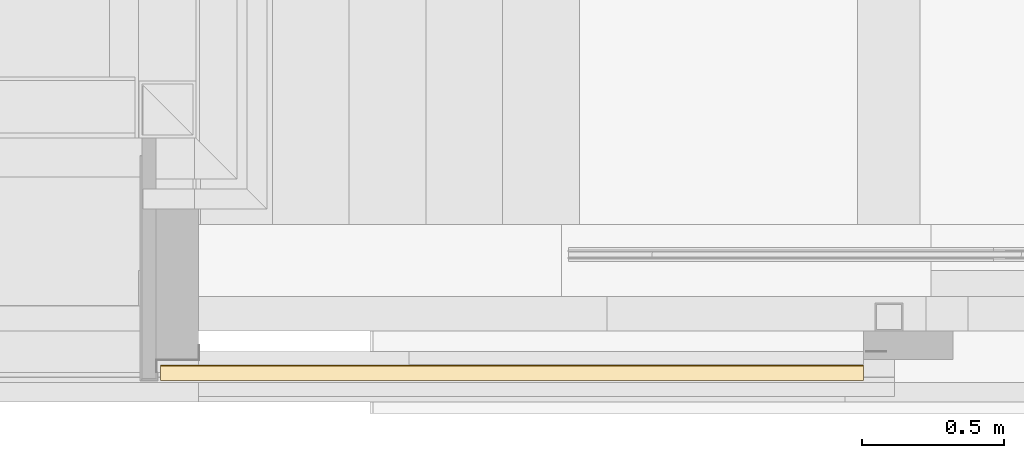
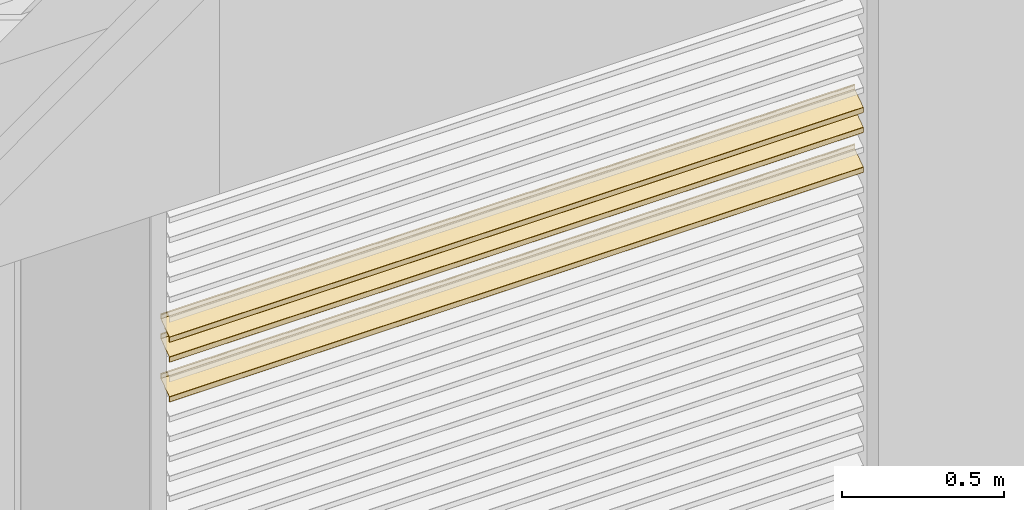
# One storey, part 110 of 165: 3 coverings, 1 element without a shape of its own.
"""IFC2X3 building model written with IfcOpenShell, lengths in millimetres."""

from ifc_helpers import new_model, entity, si_unit, converted_unit, derived_unit, money_unit, direction, frame, origin_with_axes, place, context, subcontext, project, spatial, faceted_brep, material, type_object, element, aggregate, save


model = new_model("IFC2X3")

# Units and contexts
model_context = context("Model", 3, precision=0.01, world=origin_with_axes(), true_north=direction((0.0, 1.0)))
body_context = subcontext(model_context, "Body", "Model", "MODEL_VIEW")
ifc_project = project(units=[si_unit("LENGTHUNIT", "METRE", prefix="MILLI"), si_unit("AREAUNIT", "SQUARE_METRE"), si_unit("VOLUMEUNIT", "CUBIC_METRE"), converted_unit("PLANEANGLEUNIT", "DEGREE", entity("IfcPlaneAngleMeasure", 0.0174532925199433), si_unit("PLANEANGLEUNIT", "RADIAN"), dimensions=[0, 0, 0, 0, 0, 0, 0]), money_unit("EUR"), converted_unit("TIMEUNIT", "Year", entity("IfcTimeMeasure", 31556926.0), si_unit("TIMEUNIT", "SECOND"), dimensions=[0, 0, 1, 0, 0, 0, 0]), si_unit("MASSUNIT", "GRAM", prefix="KILO"), si_unit("THERMODYNAMICTEMPERATUREUNIT", "DEGREE_CELSIUS"), si_unit("LUMINOUSINTENSITYUNIT", "LUMEN"), si_unit("ENERGYUNIT", "JOULE", prefix="MEGA"), derived_unit("THERMALCONDUCTANCEUNIT", [(si_unit("POWERUNIT", "WATT"), 1), (si_unit("LENGTHUNIT", "METRE"), -1), (si_unit("THERMODYNAMICTEMPERATUREUNIT", "KELVIN"), -1)]), derived_unit("SPECIFICHEATCAPACITYUNIT", [(si_unit("ENERGYUNIT", "JOULE"), 1), (si_unit("MASSUNIT", "GRAM", prefix="KILO"), -1), (si_unit("THERMODYNAMICTEMPERATUREUNIT", "KELVIN"), -1)]), derived_unit("MASSDENSITYUNIT", [(si_unit("MASSUNIT", "GRAM", prefix="KILO"), 1), (si_unit("VOLUMEUNIT", "CUBIC_METRE"), -1)])], contexts=[model_context])

# Site, building, storey
site_placement = place(None, origin_with_axes())
site = spatial("IfcSite", under=ifc_project, at=site_placement, Name="Site", CompositionType="ELEMENT")
building_placement = place(site_placement, origin_with_axes())
building = spatial("IfcBuilding", under=site, at=building_placement, Name="Naam gebouw", CompositionType="ELEMENT")
storey_placement = place(building_placement, origin_with_axes())
storey = spatial("IfcBuildingStorey", under=building, at=storey_placement, Name="Begane grond", CompositionType="ELEMENT", Elevation=0.0)

# Beam, coverings
beam_type = type_object("IfcBeamType", Name="30 Duco Louvre deur 55 x 2627", PredefinedType="BEAM")
beam_placement = place(storey_placement, frame((13900.0, -116.9904125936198, 0.0), z_axis=(0.0, 0.0, 1.0), x_axis=(0.0, 1.0, 0.0)))
beam = element("IfcBeam", 1, at=beam_placement, inside=storey, type_object=beam_type, Name="_Regenwaterafvoer-x", ObjectType="BEAM")
ifc_material = material(Name="Metaal - Aluminium")
covering_1_placement = place(beam_placement, origin_with_axes())
covering_1 = element("IfcCovering", 2, at=covering_1_placement, material=ifc_material, Name="Metaal - Aluminium", PredefinedType="NOTDEFINED", context=body_context, shape_type="Brep", body=[
    faceted_brep([(-4.027927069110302, 2473.999999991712, 2033.699501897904), (-56.57357643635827, 2473.999999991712, 1996.90664211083), (-56.57357643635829, 0.0, 1996.90664211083), (-4.027927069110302, 0.0, 2033.699501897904), (-3.900000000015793, 2473.999999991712, 2033.94524751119), (-3.900000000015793, 2473.999999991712, 2049.126428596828), (-3.975892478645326, 2473.999999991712, 2049.325867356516), (-4.165172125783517, 2473.999999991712, 2049.424400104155), (-4.372072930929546, 2473.999999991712, 2049.372174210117), (-5.427927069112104, 2473.999999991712, 2048.632857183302), (-5.63482787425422, 2473.999999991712, 2048.580631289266), (-5.82410752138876, 2473.999999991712, 2048.679164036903), (-5.900000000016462, 2473.999999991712, 2048.878602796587), (-5.900000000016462, 2473.999999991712, 2050.465609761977), (-5.772072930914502, 2473.999999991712, 2050.711355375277), (-2.944145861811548, 2473.999999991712, 2052.691491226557), (-2.530344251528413, 2473.999999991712, 2052.795943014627), (-2.151784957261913, 2473.999999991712, 2052.59887751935), (-2.000000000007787, 2473.999999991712, 2052.199999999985), (-2.000000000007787, 2473.999999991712, 2033.320567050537), (-2.426423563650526, 2473.999999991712, 2032.50141500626), (-26.08018232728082, 2473.999999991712, 2015.938874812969), (-26.40000000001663, 2473.999999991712, 2015.324510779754), (-26.40000000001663, 2473.999999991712, 2012.127817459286), (-26.61966991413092, 2473.999999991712, 2011.597487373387), (-28.05857864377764, 2473.999999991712, 2010.158578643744), (-28.2000000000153, 2473.999999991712, 2010.099999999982), (-28.34142135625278, 2473.999999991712, 2010.158578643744), (-28.40000000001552, 2473.999999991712, 2010.299999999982), (-28.40000000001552, 2473.999999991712, 2012.873784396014), (-28.58973119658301, 2473.999999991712, 2013.372381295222), (-29.06293031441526, 2473.999999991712, 2013.618713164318), (-29.58018232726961, 2473.999999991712, 2013.488148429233), (-30.60000000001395, 2473.999999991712, 2012.774064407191), (-30.60000000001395, 2473.999999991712, 2007.599999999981), (-30.74644660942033, 2473.999999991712, 2007.246446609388), (-31.10000000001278, 2473.999999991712, 2007.099999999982), (-32.10000000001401, 2473.999999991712, 2007.099999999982), (-32.45355339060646, 2473.999999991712, 2007.246446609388), (-32.60000000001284, 2473.999999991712, 2007.599999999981), (-32.60000000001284, 2473.999999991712, 2009.932912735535), (-32.78973119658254, 2473.999999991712, 2010.431509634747), (-33.26293031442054, 2473.999999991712, 2010.677841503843), (-33.78018232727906, 2473.999999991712, 2010.547276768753), (-54.9720729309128, 2473.999999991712, 1995.708555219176), (-55.10000000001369, 2473.999999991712, 1995.462809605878), (-55.10000000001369, 2473.999999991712, 1979.973571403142), (-55.02410752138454, 2473.999999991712, 1979.774132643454), (-54.8348278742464, 2473.999999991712, 1979.675599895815), (-54.62792706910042, 2473.999999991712, 1979.727825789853), (-53.57207293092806, 2473.999999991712, 1980.46714281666), (-53.36517212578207, 2473.999999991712, 1980.519368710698), (-53.17589247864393, 2473.999999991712, 1980.420835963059), (-53.1000000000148, 2473.999999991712, 1980.221397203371), (-53.1000000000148, 2473.999999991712, 1978.634390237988), (-53.22792706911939, 2473.999999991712, 1978.388644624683), (-56.05585413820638, 2473.999999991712, 1976.408508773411), (-56.46965574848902, 2473.999999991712, 1976.304056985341), (-56.84821504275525, 2473.999999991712, 1976.501122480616), (-57.00000000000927, 2473.999999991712, 1976.899999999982), (-57.00000000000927, 2473.999999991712, 1996.087490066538), (-57.00000000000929, 0.0, 1996.087490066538), (-57.00000000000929, 0.0, 1976.899999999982), (-56.84821504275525, 0.0, 1976.501122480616), (-56.46965574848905, 0.0, 1976.304056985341), (-56.05585413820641, 0.0, 1976.408508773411), (-53.22792706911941, 0.0, 1978.388644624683), (-53.10000000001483, 0.0, 1978.634390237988), (-53.10000000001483, 0.0, 1980.221397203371), (-53.17589247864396, 0.0, 1980.420835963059), (-53.36517212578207, 0.0, 1980.519368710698), (-53.57207293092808, 0.0, 1980.46714281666), (-54.62792706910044, 0.0, 1979.727825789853), (-54.83482787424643, 0.0, 1979.675599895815), (-55.02410752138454, 0.0, 1979.774132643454), (-55.10000000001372, 0.0, 1979.973571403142), (-55.10000000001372, 0.0, 1995.462809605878), (-54.97207293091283, 0.0, 1995.708555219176), (-33.78018232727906, 0.0, 2010.547276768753), (-33.26293031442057, 0.0, 2010.677841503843), (-32.78973119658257, 0.0, 2010.431509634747), (-32.60000000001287, 0.0, 2009.932912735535), (-32.60000000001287, 0.0, 2007.599999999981), (-32.45355339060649, 0.0, 2007.246446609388), (-32.10000000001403, 0.0, 2007.099999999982), (-31.10000000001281, 0.0, 2007.099999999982), (-30.74644660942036, 0.0, 2007.246446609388), (-30.60000000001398, 0.0, 2007.599999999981), (-30.60000000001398, 0.0, 2012.774064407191), (-29.58018232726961, 0.0, 2013.488148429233), (-29.06293031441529, 0.0, 2013.618713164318), (-28.58973119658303, 0.0, 2013.372381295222), (-28.40000000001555, 0.0, 2012.873784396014), (-28.40000000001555, 0.0, 2010.299999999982), (-28.34142135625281, 0.0, 2010.158578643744), (-28.20000000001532, 0.0, 2010.099999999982), (-28.05857864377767, 0.0, 2010.158578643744), (-26.61966991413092, 0.0, 2011.597487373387), (-26.40000000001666, 0.0, 2012.127817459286), (-26.40000000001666, 0.0, 2015.324510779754), (-26.08018232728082, 0.0, 2015.938874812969), (-2.42642356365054, 0.0, 2032.50141500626), (-2.000000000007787, 0.0, 2033.320567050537), (-2.000000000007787, 0.0, 2052.199999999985), (-2.151784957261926, 0.0, 2052.59887751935), (-2.530344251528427, 0.0, 2052.795943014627), (-2.944145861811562, 0.0, 2052.691491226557), (-5.772072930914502, 0.0, 2050.711355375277), (-5.900000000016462, 0.0, 2050.465609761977), (-5.900000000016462, 0.0, 2048.878602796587), (-5.82410752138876, 0.0, 2048.679164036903), (-5.63482787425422, 0.0, 2048.580631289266), (-5.427927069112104, 0.0, 2048.632857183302), (-4.372072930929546, 0.0, 2049.372174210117), (-4.165172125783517, 0.0, 2049.424400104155), (-3.975892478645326, 0.0, 2049.325867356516), (-3.900000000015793, 0.0, 2049.126428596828), (-3.900000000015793, 0.0, 2033.94524751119)], [[[0, 1, 2, 3]], [[0, 4, 5, 6, 7, 8, 9, 10, 11, 12, 13, 14, 15, 16, 17, 18, 19, 20, 21, 22, 23, 24, 25, 26, 27, 28, 29, 30, 31, 32, 33, 34, 35, 36, 37, 38, 39, 40, 41, 42, 43, 44, 45, 46, 47, 48, 49, 50, 51, 52, 53, 54, 55, 56, 57, 58, 59, 60, 1]], [[1, 60, 61, 2]], [[3, 2, 61, 62, 63, 64, 65, 66, 67, 68, 69, 70, 71, 72, 73, 74, 75, 76, 77, 78, 79, 80, 81, 82, 83, 84, 85, 86, 87, 88, 89, 90, 91, 92, 93, 94, 95, 96, 97, 98, 99, 100, 101, 102, 103, 104, 105, 106, 107, 108, 109, 110, 111, 112, 113, 114, 115, 116, 117]], [[4, 0, 3, 117]], [[5, 4, 117, 116]], [[6, 5, 116, 115]], [[7, 6, 115, 114]], [[8, 7, 114, 113]], [[9, 8, 113, 112]], [[10, 9, 112, 111]], [[11, 10, 111, 110]], [[12, 11, 110, 109]], [[13, 12, 109, 108]], [[14, 13, 108, 107]], [[15, 14, 107, 106]], [[16, 15, 106, 105]], [[17, 16, 105, 104]], [[18, 17, 104, 103]], [[19, 18, 103, 102]], [[20, 19, 102, 101]], [[21, 20, 101, 100]], [[22, 21, 100, 99]], [[23, 22, 99, 98]], [[24, 23, 98, 97]], [[25, 24, 97, 96]], [[26, 25, 96, 95]], [[27, 26, 95, 94]], [[28, 27, 94, 93]], [[29, 28, 93, 92]], [[30, 29, 92, 91]], [[31, 30, 91, 90]], [[32, 31, 90, 89]], [[33, 32, 89, 88]], [[34, 33, 88, 87]], [[35, 34, 87, 86]], [[36, 35, 86, 85]], [[37, 36, 85, 84]], [[38, 37, 84, 83]], [[39, 38, 83, 82]], [[40, 39, 82, 81]], [[41, 40, 81, 80]], [[42, 41, 80, 79]], [[43, 42, 79, 78]], [[44, 43, 78, 77]], [[45, 44, 77, 76]], [[46, 45, 76, 75]], [[47, 46, 75, 74]], [[48, 47, 74, 73]], [[49, 48, 73, 72]], [[50, 49, 72, 71]], [[51, 50, 71, 70]], [[52, 51, 70, 69]], [[53, 52, 69, 68]], [[54, 53, 68, 67]], [[55, 54, 67, 66]], [[56, 55, 66, 65]], [[57, 56, 65, 64]], [[58, 57, 64, 63]], [[59, 58, 63, 62]], [[60, 59, 62, 61]]]),
])
covering_2_placement = place(beam_placement, origin_with_axes())
covering_2 = element("IfcCovering", 3, at=covering_2_placement, material=ifc_material, Name="Metaal - Aluminium", PredefinedType="NOTDEFINED", context=body_context, shape_type="Brep", body=[
    faceted_brep([(-4.027927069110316, 2473.999999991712, 2108.699501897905), (-56.57357643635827, 2473.999999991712, 2071.906642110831), (-56.57357643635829, 0.0, 2071.906642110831), (-4.027927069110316, 0.0, 2108.699501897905), (-3.90000000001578, 2473.999999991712, 2108.945247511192), (-3.90000000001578, 2473.999999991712, 2124.126428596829), (-3.975892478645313, 2473.999999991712, 2124.325867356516), (-4.165172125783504, 2473.999999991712, 2124.424400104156), (-4.372072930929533, 2473.999999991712, 2124.372174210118), (-5.42792706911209, 2473.999999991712, 2123.632857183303), (-5.634827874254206, 2473.999999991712, 2123.580631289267), (-5.824107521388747, 2473.999999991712, 2123.679164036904), (-5.900000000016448, 2473.999999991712, 2123.878602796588), (-5.900000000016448, 2473.999999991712, 2125.465609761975), (-5.772072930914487, 2473.999999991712, 2125.711355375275), (-2.944145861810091, 2473.999999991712, 2127.691491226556), (-2.530344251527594, 2473.999999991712, 2127.795943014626), (-2.151784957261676, 2473.999999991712, 2127.59887751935), (-2.000000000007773, 2473.999999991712, 2127.199999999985), (-2.000000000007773, 2473.999999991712, 2108.320567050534), (-2.426423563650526, 2473.999999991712, 2107.501415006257), (-26.08018232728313, 2473.999999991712, 2090.938874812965), (-26.40000000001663, 2473.999999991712, 2090.324510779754), (-26.40000000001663, 2473.999999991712, 2087.127817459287), (-26.61966991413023, 2473.999999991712, 2086.597487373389), (-28.05857864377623, 2473.999999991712, 2085.158578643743), (-28.20000000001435, 2473.999999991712, 2085.09999999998), (-28.34142135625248, 2473.999999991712, 2085.158578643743), (-28.40000000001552, 2473.999999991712, 2085.299999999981), (-28.40000000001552, 2473.999999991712, 2087.873784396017), (-28.58973119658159, 2473.999999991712, 2088.372381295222), (-29.06293031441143, 2473.999999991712, 2088.618713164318), (-29.58018232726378, 2473.999999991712, 2088.488148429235), (-30.60000000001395, 2473.999999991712, 2087.774064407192), (-30.60000000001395, 2473.999999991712, 2082.599999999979), (-30.74644660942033, 2473.999999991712, 2082.246446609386), (-31.10000000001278, 2473.999999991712, 2082.099999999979), (-32.10000000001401, 2473.999999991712, 2082.099999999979), (-32.45355339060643, 2473.999999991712, 2082.246446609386), (-32.60000000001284, 2473.999999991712, 2082.599999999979), (-32.60000000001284, 2473.999999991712, 2084.932912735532), (-32.78973119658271, 2473.999999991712, 2085.431509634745), (-33.26293031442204, 2473.999999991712, 2085.677841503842), (-33.780182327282, 2473.999999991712, 2085.547276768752), (-54.97207293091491, 2473.999999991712, 2070.708555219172), (-55.10000000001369, 2473.999999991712, 2070.462809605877), (-55.10000000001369, 2473.999999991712, 2054.973571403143), (-55.02410752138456, 2473.999999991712, 2054.774132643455), (-54.83482787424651, 2473.999999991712, 2054.675599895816), (-54.62792706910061, 2473.999999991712, 2054.727825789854), (-53.57207293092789, 2473.999999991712, 2055.467142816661), (-53.36517212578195, 2473.999999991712, 2055.519368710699), (-53.1758924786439, 2473.999999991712, 2055.420835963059), (-53.1000000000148, 2473.999999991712, 2055.221397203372), (-53.1000000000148, 2473.999999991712, 2053.634390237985), (-53.22792706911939, 2473.999999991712, 2053.38864462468), (-56.05585413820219, 2473.999999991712, 2051.408508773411), (-56.46965574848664, 2473.999999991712, 2051.304056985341), (-56.84821504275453, 2473.999999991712, 2051.501122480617), (-57.00000000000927, 2473.999999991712, 2051.899999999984), (-57.00000000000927, 2473.999999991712, 2071.087490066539), (-57.00000000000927, 0.0, 2071.087490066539), (-57.00000000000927, 0.0, 2051.899999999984), (-56.84821504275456, 0.0, 2051.501122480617), (-56.46965574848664, 0.0, 2051.304056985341), (-56.05585413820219, 0.0, 2051.408508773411), (-53.22792706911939, 0.0, 2053.38864462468), (-53.1000000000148, 0.0, 2053.634390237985), (-53.1000000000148, 0.0, 2055.221397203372), (-53.17589247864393, 0.0, 2055.420835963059), (-53.36517212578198, 0.0, 2055.519368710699), (-53.57207293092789, 0.0, 2055.467142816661), (-54.62792706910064, 0.0, 2054.727825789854), (-54.83482787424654, 0.0, 2054.675599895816), (-55.02410752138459, 0.0, 2054.774132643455), (-55.10000000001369, 0.0, 2054.973571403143), (-55.10000000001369, 0.0, 2070.462809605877), (-54.97207293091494, 0.0, 2070.708555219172), (-33.78018232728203, 0.0, 2085.547276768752), (-33.26293031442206, 0.0, 2085.677841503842), (-32.78973119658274, 0.0, 2085.431509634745), (-32.60000000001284, 0.0, 2084.932912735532), (-32.60000000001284, 0.0, 2082.599999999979), (-32.45355339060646, 0.0, 2082.246446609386), (-32.10000000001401, 0.0, 2082.099999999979), (-31.10000000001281, 0.0, 2082.099999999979), (-30.74644660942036, 0.0, 2082.246446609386), (-30.60000000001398, 0.0, 2082.599999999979), (-30.60000000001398, 0.0, 2087.774064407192), (-29.58018232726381, 0.0, 2088.488148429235), (-29.06293031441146, 0.0, 2088.618713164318), (-28.58973119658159, 0.0, 2088.372381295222), (-28.40000000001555, 0.0, 2087.873784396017), (-28.40000000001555, 0.0, 2085.299999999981), (-28.3414213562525, 0.0, 2085.158578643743), (-28.20000000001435, 0.0, 2085.09999999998), (-28.05857864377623, 0.0, 2085.158578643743), (-26.61966991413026, 0.0, 2086.597487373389), (-26.40000000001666, 0.0, 2087.127817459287), (-26.40000000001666, 0.0, 2090.324510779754), (-26.08018232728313, 0.0, 2090.938874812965), (-2.426423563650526, 0.0, 2107.501415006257), (-2.000000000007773, 0.0, 2108.320567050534), (-2.000000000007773, 0.0, 2127.199999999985), (-2.151784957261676, 0.0, 2127.59887751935), (-2.530344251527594, 0.0, 2127.795943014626), (-2.944145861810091, 0.0, 2127.691491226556), (-5.772072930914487, 0.0, 2125.711355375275), (-5.900000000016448, 0.0, 2125.465609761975), (-5.900000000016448, 0.0, 2123.878602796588), (-5.824107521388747, 0.0, 2123.679164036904), (-5.63482787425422, 0.0, 2123.580631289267), (-5.42792706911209, 0.0, 2123.632857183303), (-4.372072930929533, 0.0, 2124.372174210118), (-4.165172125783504, 0.0, 2124.424400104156), (-3.975892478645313, 0.0, 2124.325867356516), (-3.90000000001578, 0.0, 2124.126428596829), (-3.90000000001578, 0.0, 2108.945247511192)], [[[0, 1, 2, 3]], [[0, 4, 5, 6, 7, 8, 9, 10, 11, 12, 13, 14, 15, 16, 17, 18, 19, 20, 21, 22, 23, 24, 25, 26, 27, 28, 29, 30, 31, 32, 33, 34, 35, 36, 37, 38, 39, 40, 41, 42, 43, 44, 45, 46, 47, 48, 49, 50, 51, 52, 53, 54, 55, 56, 57, 58, 59, 60, 1]], [[1, 60, 61, 2]], [[3, 2, 61, 62, 63, 64, 65, 66, 67, 68, 69, 70, 71, 72, 73, 74, 75, 76, 77, 78, 79, 80, 81, 82, 83, 84, 85, 86, 87, 88, 89, 90, 91, 92, 93, 94, 95, 96, 97, 98, 99, 100, 101, 102, 103, 104, 105, 106, 107, 108, 109, 110, 111, 112, 113, 114, 115, 116, 117]], [[4, 0, 3, 117]], [[5, 4, 117, 116]], [[6, 5, 116, 115]], [[7, 6, 115, 114]], [[8, 7, 114, 113]], [[9, 8, 113, 112]], [[10, 9, 112, 111]], [[11, 10, 111, 110]], [[12, 11, 110, 109]], [[13, 12, 109, 108]], [[14, 13, 108, 107]], [[15, 14, 107, 106]], [[16, 15, 106, 105]], [[17, 16, 105, 104]], [[18, 17, 104, 103]], [[19, 18, 103, 102]], [[20, 19, 102, 101]], [[21, 20, 101, 100]], [[22, 21, 100, 99]], [[23, 22, 99, 98]], [[24, 23, 98, 97]], [[25, 24, 97, 96]], [[26, 25, 96, 95]], [[27, 26, 95, 94]], [[28, 27, 94, 93]], [[29, 28, 93, 92]], [[30, 29, 92, 91]], [[31, 30, 91, 90]], [[32, 31, 90, 89]], [[33, 32, 89, 88]], [[34, 33, 88, 87]], [[35, 34, 87, 86]], [[36, 35, 86, 85]], [[37, 36, 85, 84]], [[38, 37, 84, 83]], [[39, 38, 83, 82]], [[40, 39, 82, 81]], [[41, 40, 81, 80]], [[42, 41, 80, 79]], [[43, 42, 79, 78]], [[44, 43, 78, 77]], [[45, 44, 77, 76]], [[46, 45, 76, 75]], [[47, 46, 75, 74]], [[48, 47, 74, 73]], [[49, 48, 73, 72]], [[50, 49, 72, 71]], [[51, 50, 71, 70]], [[52, 51, 70, 69]], [[53, 52, 69, 68]], [[54, 53, 68, 67]], [[55, 54, 67, 66]], [[56, 55, 66, 65]], [[57, 56, 65, 64]], [[58, 57, 64, 63]], [[59, 58, 63, 62]], [[60, 59, 62, 61]]]),
])
covering_3_placement = place(beam_placement, origin_with_axes())
covering_3 = element("IfcCovering", 4, at=covering_3_placement, material=ifc_material, Name="Metaal - Aluminium", PredefinedType="NOTDEFINED", context=body_context, shape_type="Brep", body=[
    faceted_brep([(-4.027927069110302, 2473.999999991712, 1883.699501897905), (-56.57357643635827, 2473.999999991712, 1846.906642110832), (-56.57357643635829, 0.0, 1846.906642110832), (-4.027927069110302, 0.0, 1883.699501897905), (-3.90000000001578, 2473.999999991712, 1883.945247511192), (-3.90000000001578, 2473.999999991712, 1899.126428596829), (-3.97589247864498, 2473.999999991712, 1899.325867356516), (-4.165172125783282, 2473.999999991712, 1899.424400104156), (-4.372072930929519, 2473.999999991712, 1899.372174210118), (-5.427927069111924, 2473.999999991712, 1898.632857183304), (-5.634827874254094, 2473.999999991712, 1898.580631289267), (-5.824107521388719, 2473.999999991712, 1898.679164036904), (-5.900000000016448, 2473.999999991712, 1898.878602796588), (-5.900000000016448, 2473.999999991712, 1900.465609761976), (-5.77207293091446, 2473.999999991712, 1900.711355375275), (-2.944145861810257, 2473.999999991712, 1902.691491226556), (-2.53034425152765, 2473.999999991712, 1902.795943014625), (-2.151784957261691, 2473.999999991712, 1902.59887751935), (-2.000000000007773, 2473.999999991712, 1902.199999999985), (-2.000000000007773, 2473.999999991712, 1883.320567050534), (-2.426423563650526, 2473.999999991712, 1882.501415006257), (-26.08018232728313, 2473.999999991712, 1865.938874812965), (-26.40000000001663, 2473.999999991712, 1865.324510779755), (-26.40000000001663, 2473.999999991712, 1862.127817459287), (-26.61966991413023, 2473.999999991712, 1861.597487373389), (-28.05857864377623, 2473.999999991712, 1860.158578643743), (-28.20000000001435, 2473.999999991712, 1860.09999999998), (-28.34142135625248, 2473.999999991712, 1860.158578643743), (-28.40000000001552, 2473.999999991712, 1860.299999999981), (-28.40000000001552, 2473.999999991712, 1862.873784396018), (-28.58973119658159, 2473.999999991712, 1863.372381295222), (-29.06293031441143, 2473.999999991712, 1863.618713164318), (-29.58018232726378, 2473.999999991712, 1863.488148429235), (-30.60000000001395, 2473.999999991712, 1862.774064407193), (-30.60000000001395, 2473.999999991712, 1857.599999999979), (-30.74644660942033, 2473.999999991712, 1857.246446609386), (-31.10000000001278, 2473.999999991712, 1857.09999999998), (-32.10000000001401, 2473.999999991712, 1857.09999999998), (-32.45355339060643, 2473.999999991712, 1857.246446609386), (-32.60000000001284, 2473.999999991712, 1857.599999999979), (-32.60000000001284, 2473.999999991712, 1859.932912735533), (-32.78973119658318, 2473.999999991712, 1860.431509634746), (-33.26293031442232, 2473.999999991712, 1860.677841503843), (-33.780182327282, 2473.999999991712, 1860.547276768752), (-54.97207293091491, 2473.999999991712, 1845.708555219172), (-55.10000000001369, 2473.999999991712, 1845.462809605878), (-55.10000000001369, 2473.999999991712, 1829.973571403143), (-55.02410752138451, 2473.999999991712, 1829.774132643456), (-54.8348278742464, 2473.999999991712, 1829.675599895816), (-54.62792706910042, 2473.999999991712, 1829.727825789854), (-53.57207293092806, 2473.999999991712, 1830.467142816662), (-53.36517212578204, 2473.999999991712, 1830.5193687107), (-53.17589247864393, 2473.999999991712, 1830.42083596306), (-53.1000000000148, 2473.999999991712, 1830.221397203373), (-53.1000000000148, 2473.999999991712, 1828.634390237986), (-53.22792706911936, 2473.999999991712, 1828.388644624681), (-56.05585413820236, 2473.999999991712, 1826.408508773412), (-56.46965574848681, 2473.999999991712, 1826.304056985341), (-56.84821504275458, 2473.999999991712, 1826.501122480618), (-57.00000000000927, 2473.999999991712, 1826.899999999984), (-57.00000000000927, 2473.999999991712, 1846.087490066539), (-57.00000000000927, 0.0, 1846.087490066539), (-57.00000000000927, 0.0, 1826.899999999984), (-56.84821504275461, 0.0, 1826.501122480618), (-56.46965574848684, 0.0, 1826.304056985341), (-56.05585413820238, 0.0, 1826.408508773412), (-53.22792706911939, 0.0, 1828.388644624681), (-53.1000000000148, 0.0, 1828.634390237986), (-53.1000000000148, 0.0, 1830.221397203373), (-53.17589247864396, 0.0, 1830.42083596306), (-53.36517212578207, 0.0, 1830.5193687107), (-53.57207293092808, 0.0, 1830.467142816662), (-54.62792706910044, 0.0, 1829.727825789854), (-54.83482787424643, 0.0, 1829.675599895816), (-55.02410752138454, 0.0, 1829.774132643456), (-55.10000000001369, 0.0, 1829.973571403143), (-55.10000000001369, 0.0, 1845.462809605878), (-54.97207293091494, 0.0, 1845.708555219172), (-33.78018232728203, 0.0, 1860.547276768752), (-33.26293031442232, 0.0, 1860.677841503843), (-32.78973119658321, 0.0, 1860.431509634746), (-32.60000000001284, 0.0, 1859.932912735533), (-32.60000000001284, 0.0, 1857.599999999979), (-32.45355339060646, 0.0, 1857.246446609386), (-32.10000000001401, 0.0, 1857.09999999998), (-31.10000000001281, 0.0, 1857.09999999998), (-30.74644660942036, 0.0, 1857.246446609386), (-30.60000000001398, 0.0, 1857.599999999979), (-30.60000000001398, 0.0, 1862.774064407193), (-29.58018232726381, 0.0, 1863.488148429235), (-29.06293031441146, 0.0, 1863.618713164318), (-28.58973119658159, 0.0, 1863.372381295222), (-28.40000000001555, 0.0, 1862.873784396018), (-28.40000000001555, 0.0, 1860.299999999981), (-28.3414213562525, 0.0, 1860.158578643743), (-28.20000000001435, 0.0, 1860.09999999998), (-28.05857864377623, 0.0, 1860.158578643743), (-26.61966991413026, 0.0, 1861.597487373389), (-26.40000000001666, 0.0, 1862.127817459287), (-26.40000000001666, 0.0, 1865.324510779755), (-26.08018232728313, 0.0, 1865.938874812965), (-2.42642356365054, 0.0, 1882.501415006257), (-2.000000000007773, 0.0, 1883.320567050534), (-2.000000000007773, 0.0, 1902.199999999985), (-2.151784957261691, 0.0, 1902.59887751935), (-2.530344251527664, 0.0, 1902.795943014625), (-2.944145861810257, 0.0, 1902.691491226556), (-5.77207293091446, 0.0, 1900.711355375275), (-5.900000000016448, 0.0, 1900.465609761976), (-5.900000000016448, 0.0, 1898.878602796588), (-5.824107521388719, 0.0, 1898.679164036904), (-5.634827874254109, 0.0, 1898.580631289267), (-5.427927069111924, 0.0, 1898.632857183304), (-4.372072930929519, 0.0, 1899.372174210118), (-4.165172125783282, 0.0, 1899.424400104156), (-3.975892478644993, 0.0, 1899.325867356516), (-3.90000000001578, 0.0, 1899.126428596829), (-3.90000000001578, 0.0, 1883.945247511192)], [[[0, 1, 2, 3]], [[0, 4, 5, 6, 7, 8, 9, 10, 11, 12, 13, 14, 15, 16, 17, 18, 19, 20, 21, 22, 23, 24, 25, 26, 27, 28, 29, 30, 31, 32, 33, 34, 35, 36, 37, 38, 39, 40, 41, 42, 43, 44, 45, 46, 47, 48, 49, 50, 51, 52, 53, 54, 55, 56, 57, 58, 59, 60, 1]], [[1, 60, 61, 2]], [[3, 2, 61, 62, 63, 64, 65, 66, 67, 68, 69, 70, 71, 72, 73, 74, 75, 76, 77, 78, 79, 80, 81, 82, 83, 84, 85, 86, 87, 88, 89, 90, 91, 92, 93, 94, 95, 96, 97, 98, 99, 100, 101, 102, 103, 104, 105, 106, 107, 108, 109, 110, 111, 112, 113, 114, 115, 116, 117]], [[4, 0, 3, 117]], [[5, 4, 117, 116]], [[6, 5, 116, 115]], [[7, 6, 115, 114]], [[8, 7, 114, 113]], [[9, 8, 113, 112]], [[10, 9, 112, 111]], [[11, 10, 111, 110]], [[12, 11, 110, 109]], [[13, 12, 109, 108]], [[14, 13, 108, 107]], [[15, 14, 107, 106]], [[16, 15, 106, 105]], [[17, 16, 105, 104]], [[18, 17, 104, 103]], [[19, 18, 103, 102]], [[20, 19, 102, 101]], [[21, 20, 101, 100]], [[22, 21, 100, 99]], [[23, 22, 99, 98]], [[24, 23, 98, 97]], [[25, 24, 97, 96]], [[26, 25, 96, 95]], [[27, 26, 95, 94]], [[28, 27, 94, 93]], [[29, 28, 93, 92]], [[30, 29, 92, 91]], [[31, 30, 91, 90]], [[32, 31, 90, 89]], [[33, 32, 89, 88]], [[34, 33, 88, 87]], [[35, 34, 87, 86]], [[36, 35, 86, 85]], [[37, 36, 85, 84]], [[38, 37, 84, 83]], [[39, 38, 83, 82]], [[40, 39, 82, 81]], [[41, 40, 81, 80]], [[42, 41, 80, 79]], [[43, 42, 79, 78]], [[44, 43, 78, 77]], [[45, 44, 77, 76]], [[46, 45, 76, 75]], [[47, 46, 75, 74]], [[48, 47, 74, 73]], [[49, 48, 73, 72]], [[50, 49, 72, 71]], [[51, 50, 71, 70]], [[52, 51, 70, 69]], [[53, 52, 69, 68]], [[54, 53, 68, 67]], [[55, 54, 67, 66]], [[56, 55, 66, 65]], [[57, 56, 65, 64]], [[58, 57, 64, 63]], [[59, 58, 63, 62]], [[60, 59, 62, 61]]]),
])
aggregate(beam, [covering_1, covering_2, covering_3])

save(model, "model.ifc")
